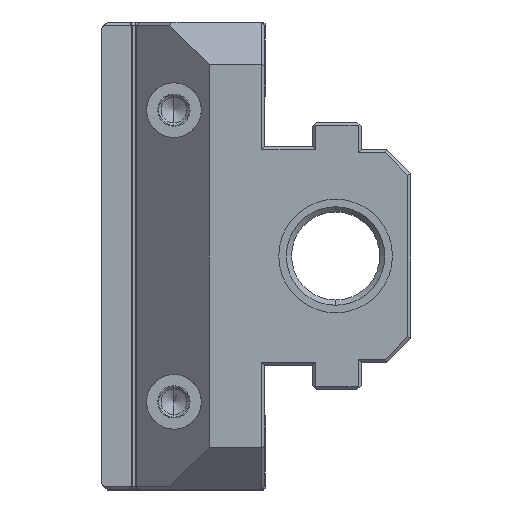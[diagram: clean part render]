
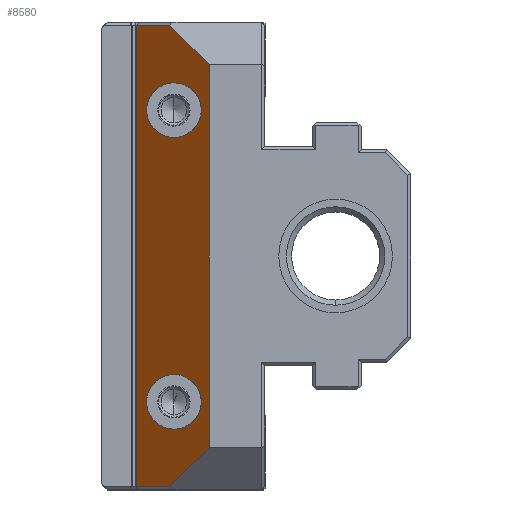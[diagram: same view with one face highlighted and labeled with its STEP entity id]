
A CAD part, left-side view. The second image highlights one B-rep face of the part: STEP entity #8580.
In plain terms, the highlighted planar face has unit normal (-0.707, 0.707, 0) as drawn and (0, 0.707, -0.707) by its records, which use the part's own axes.
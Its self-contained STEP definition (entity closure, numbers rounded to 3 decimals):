
#78 = CARTESIAN_POINT ( 'NONE',  ( -19.5, 26.6, -22.2 ) ) ;
#182 = AXIS2_PLACEMENT_3D ( 'NONE', #6119, #8245, #4021 ) ;
#340 = CARTESIAN_POINT ( 'NONE',  ( -31.5, 20.8, -28. ) ) ;
#429 = EDGE_CURVE ( 'NONE', #5178, #6459, #2147, .T. ) ;
#526 = CARTESIAN_POINT ( 'NONE',  ( -19.5, 17.6, -31.2 ) ) ;
#756 = CARTESIAN_POINT ( 'NONE',  ( -28.5, 35.6, -13.2 ) ) ;
#764 = EDGE_LOOP ( 'NONE', ( #5183, #1773, #8390, #2140, #7293, #2666 ) ) ;
#856 = DIRECTION ( 'NONE',  ( -1., 0., 0. ) ) ;
#912 = VECTOR ( 'NONE', #2719, 1000. ) ;
#916 = EDGE_CURVE ( 'NONE', #2817, #7928, #946, .T. ) ;
#919 = CARTESIAN_POINT ( 'NONE',  ( 38.5, 20.8, -28. ) ) ;
#946 = LINE ( 'NONE', #8252, #8167 ) ;
#1018 = EDGE_CURVE ( 'NONE', #4142, #8419, #7063, .T. ) ;
#1038 = CARTESIAN_POINT ( 'NONE',  ( -28.5, 26.6, -22.2 ) ) ;
#1156 = VERTEX_POINT ( 'NONE', #8878 ) ;
#1537 = VERTEX_POINT ( 'NONE', #6649 ) ;
#1539 = LINE ( 'NONE', #6990, #5022 ) ;
#1542 = CARTESIAN_POINT ( 'NONE',  ( -38., 27.3, -21.5 ) ) ;
#1696 = VECTOR ( 'NONE', #3883, 1000. ) ;
#1773 = ORIENTED_EDGE ( 'NONE', *, *, #916, .T. ) ;
#1798 = CARTESIAN_POINT ( 'NONE',  ( 38., 27.8, -21. ) ) ;
#1840 = EDGE_LOOP ( 'NONE', ( #8686, #8014 ) ) ;
#1933 = EDGE_CURVE ( 'NONE', #1156, #4886, #7705, .T. ) ;
#1983 = CARTESIAN_POINT ( 'NONE',  ( 38., 32.8, -16. ) ) ;
#2140 = ORIENTED_EDGE ( 'NONE', *, *, #1018, .T. ) ;
#2147 = LINE ( 'NONE', #919, #7512 ) ;
#2158 = FACE_BOUND ( 'NONE', #1840, .T. ) ;
#2215 = CARTESIAN_POINT ( 'NONE',  ( -38., 32.8, -16. ) ) ;
#2584 = CARTESIAN_POINT ( 'NONE',  ( 28.5, 26.6, -22.2 ) ) ;
#2666 = ORIENTED_EDGE ( 'NONE', *, *, #429, .T. ) ;
#2688 = CARTESIAN_POINT ( 'NONE',  ( 38.5, 32.8, -16. ) ) ;
#2719 = DIRECTION ( 'NONE',  ( -1., 0., 0. ) ) ;
#2746 = LINE ( 'NONE', #2688, #912 ) ;
#2754 =( BOUNDED_CURVE ( )  B_SPLINE_CURVE ( 3, ( #2584, #8182, #3290, #8220 ),
 .UNSPECIFIED., .F., .F. ) 
 B_SPLINE_CURVE_WITH_KNOTS ( ( 4, 4 ),
 ( 1.571, 4.712 ),
 .UNSPECIFIED. ) 
 CURVE ( )  GEOMETRIC_REPRESENTATION_ITEM ( )  RATIONAL_B_SPLINE_CURVE ( ( 1., 0.333, 0.333, 1. ) ) 
 REPRESENTATION_ITEM ( '' )  );
#2817 = VERTEX_POINT ( 'NONE', #1542 ) ;
#2976 = CARTESIAN_POINT ( 'NONE',  ( 31.5, 20.8, -28. ) ) ;
#3017 = EDGE_CURVE ( 'NONE', #8149, #1537, #4320, .T. ) ;
#3290 = CARTESIAN_POINT ( 'NONE',  ( 19.5, 35.6, -13.2 ) ) ;
#3365 = VECTOR ( 'NONE', #4522, 1000. ) ;
#3782 = FACE_BOUND ( 'NONE', #7755, .T. ) ;
#3805 = CARTESIAN_POINT ( 'NONE',  ( 38., 27.3, -21.5 ) ) ;
#3817 = CARTESIAN_POINT ( 'NONE',  ( -31.5, 20.8, -28. ) ) ;
#3883 = DIRECTION ( 'NONE',  ( 0., -0.707, -0.707 ) ) ;
#3978 = CARTESIAN_POINT ( 'NONE',  ( -28.5, 26.6, -22.2 ) ) ;
#4021 = DIRECTION ( 'NONE',  ( 0., -0.707, -0.707 ) ) ;
#4091 = ORIENTED_EDGE ( 'NONE', *, *, #5051, .T. ) ;
#4142 = VERTEX_POINT ( 'NONE', #1983 ) ;
#4253 = ORIENTED_EDGE ( 'NONE', *, *, #3017, .T. ) ;
#4320 =( BOUNDED_CURVE ( )  B_SPLINE_CURVE ( 3, ( #3978, #8197, #526, #5404 ),
 .UNSPECIFIED., .F., .T. ) 
 B_SPLINE_CURVE_WITH_KNOTS ( ( 4, 4 ),
 ( 4.712, 7.854 ),
 .UNSPECIFIED. ) 
 CURVE ( )  GEOMETRIC_REPRESENTATION_ITEM ( )  RATIONAL_B_SPLINE_CURVE ( ( 1., 0.333, 0.333, 1. ) ) 
 REPRESENTATION_ITEM ( '' )  );
#4522 = DIRECTION ( 'NONE',  ( -0.577, 0.577, 0.577 ) ) ;
#4881 = DIRECTION ( 'NONE',  ( -0.577, -0.577, -0.577 ) ) ;
#4886 = VERTEX_POINT ( 'NONE', #8445 ) ;
#5022 = VECTOR ( 'NONE', #4881, 1000. ) ;
#5051 = EDGE_CURVE ( 'NONE', #1537, #8149, #5162, .T. ) ;
#5162 =( BOUNDED_CURVE ( )  B_SPLINE_CURVE ( 3, ( #78, #8422, #756, #5626 ),
 .UNSPECIFIED., .F., .F. ) 
 B_SPLINE_CURVE_WITH_KNOTS ( ( 4, 4 ),
 ( 1.571, 4.712 ),
 .UNSPECIFIED. ) 
 CURVE ( )  GEOMETRIC_REPRESENTATION_ITEM ( )  RATIONAL_B_SPLINE_CURVE ( ( 1., 0.333, 0.333, 1. ) ) 
 REPRESENTATION_ITEM ( '' )  );
#5178 = VERTEX_POINT ( 'NONE', #2976 ) ;
#5183 = ORIENTED_EDGE ( 'NONE', *, *, #8158, .T. ) ;
#5404 = CARTESIAN_POINT ( 'NONE',  ( -19.5, 26.6, -22.2 ) ) ;
#5626 = CARTESIAN_POINT ( 'NONE',  ( -28.5, 26.6, -22.2 ) ) ;
#5880 = FACE_OUTER_BOUND ( 'NONE', #764, .T. ) ;
#6004 = CARTESIAN_POINT ( 'NONE',  ( 19.5, 17.6, -31.2 ) ) ;
#6119 = CARTESIAN_POINT ( 'NONE',  ( 38.5, 32.8, -16. ) ) ;
#6161 = EDGE_CURVE ( 'NONE', #4142, #7928, #2746, .T. ) ;
#6459 = VERTEX_POINT ( 'NONE', #340 ) ;
#6649 = CARTESIAN_POINT ( 'NONE',  ( -19.5, 26.6, -22.2 ) ) ;
#6707 = CARTESIAN_POINT ( 'NONE',  ( 28.5, 26.6, -22.2 ) ) ;
#6796 = EDGE_CURVE ( 'NONE', #8419, #5178, #1539, .T. ) ;
#6990 = CARTESIAN_POINT ( 'NONE',  ( 40.233, 29.533, -19.267 ) ) ;
#7060 = EDGE_CURVE ( 'NONE', #4886, #1156, #2754, .T. ) ;
#7063 = LINE ( 'NONE', #1798, #1696 ) ;
#7101 = LINE ( 'NONE', #3817, #3365 ) ;
#7293 = ORIENTED_EDGE ( 'NONE', *, *, #6796, .T. ) ;
#7396 = CARTESIAN_POINT ( 'NONE',  ( 28.5, 17.6, -31.2 ) ) ;
#7512 = VECTOR ( 'NONE', #856, 1000. ) ;
#7567 = DIRECTION ( 'NONE',  ( 0., 0.707, 0.707 ) ) ;
#7705 =( BOUNDED_CURVE ( )  B_SPLINE_CURVE ( 3, ( #8126, #6004, #7396, #6707 ),
 .UNSPECIFIED., .F., .T. ) 
 B_SPLINE_CURVE_WITH_KNOTS ( ( 4, 4 ),
 ( 4.712, 7.854 ),
 .UNSPECIFIED. ) 
 CURVE ( )  GEOMETRIC_REPRESENTATION_ITEM ( )  RATIONAL_B_SPLINE_CURVE ( ( 1., 0.333, 0.333, 1. ) ) 
 REPRESENTATION_ITEM ( '' )  );
#7755 = EDGE_LOOP ( 'NONE', ( #4253, #4091 ) ) ;
#7928 = VERTEX_POINT ( 'NONE', #2215 ) ;
#8014 = ORIENTED_EDGE ( 'NONE', *, *, #7060, .T. ) ;
#8126 = CARTESIAN_POINT ( 'NONE',  ( 19.5, 26.6, -22.2 ) ) ;
#8149 = VERTEX_POINT ( 'NONE', #1038 ) ;
#8158 = EDGE_CURVE ( 'NONE', #6459, #2817, #7101, .T. ) ;
#8167 = VECTOR ( 'NONE', #7567, 1000. ) ;
#8182 = CARTESIAN_POINT ( 'NONE',  ( 28.5, 35.6, -13.2 ) ) ;
#8197 = CARTESIAN_POINT ( 'NONE',  ( -28.5, 17.6, -31.2 ) ) ;
#8220 = CARTESIAN_POINT ( 'NONE',  ( 19.5, 26.6, -22.2 ) ) ;
#8245 = DIRECTION ( 'NONE',  ( 0., -0.707, 0.707 ) ) ;
#8252 = CARTESIAN_POINT ( 'NONE',  ( -38., 32.8, -16. ) ) ;
#8390 = ORIENTED_EDGE ( 'NONE', *, *, #6161, .F. ) ;
#8419 = VERTEX_POINT ( 'NONE', #3805 ) ;
#8422 = CARTESIAN_POINT ( 'NONE',  ( -19.5, 35.6, -13.2 ) ) ;
#8445 = CARTESIAN_POINT ( 'NONE',  ( 28.5, 26.6, -22.2 ) ) ;
#8580 = ADVANCED_FACE ( 'NONE', ( #2158, #3782, #5880 ), #8914, .F. ) ;
#8686 = ORIENTED_EDGE ( 'NONE', *, *, #1933, .T. ) ;
#8878 = CARTESIAN_POINT ( 'NONE',  ( 19.5, 26.6, -22.2 ) ) ;
#8914 = PLANE ( 'NONE',  #182 ) ;
